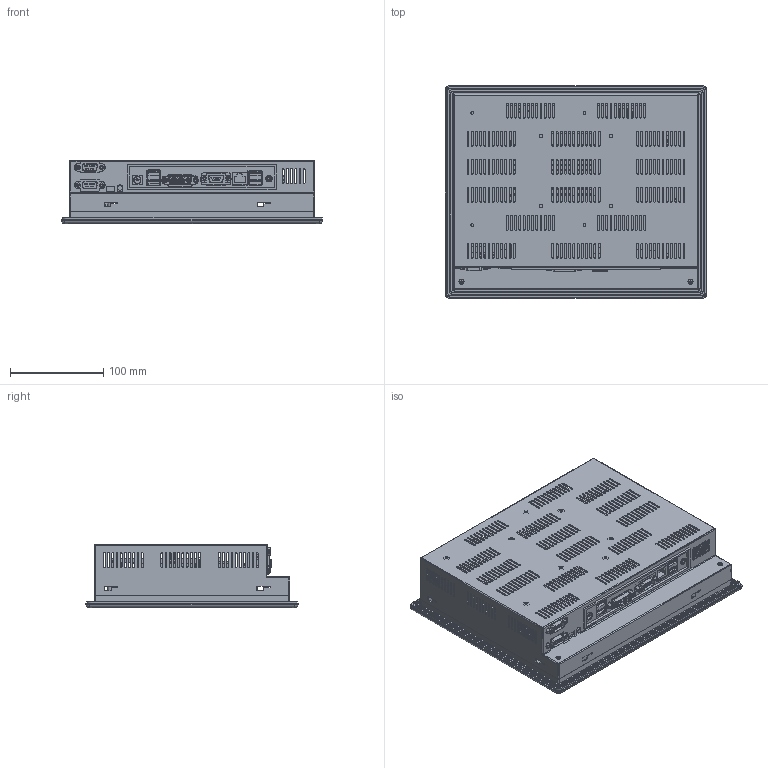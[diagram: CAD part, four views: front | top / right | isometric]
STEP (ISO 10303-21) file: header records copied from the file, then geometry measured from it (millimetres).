
FILE_DESCRIPTION (( 'STEP AP214' ), '1' );
FILE_NAME ('CPCV5-104WF.STEP', '2016-03-30T06:39:49', ( 'Registered User' ), ( 'Microsoft Corporation' ), 'SwSTEP 2.0', 'SolidWorks 2014', '' );
FILE_SCHEMA (( 'AUTOMOTIVE_DESIGN' ));
Length unit declared in the file: millimetre
Products named in the file (1): CPCV5-104WF
Bounding box: 280 x 227 x 68 mm (x, y, z)
Surface area: 508653 mm2 (no closed solid volume)
Topology: 0 solids, 110 shells, 2471 faces, 9473 edges, 6981 vertices
Faces by surface type: plane 1405, cylinder 962, torus 42, cone 31, bspline 20, sphere 11
Entity records: 128554 total; most frequent: CARTESIAN_POINT 20433, DIRECTION 16401, ORIENTED_EDGE 15165, EDGE_CURVE 9463, VERTEX_POINT 6981, VECTOR 6787, LINE 6787, AXIS2_PLACEMENT_3D 4807
